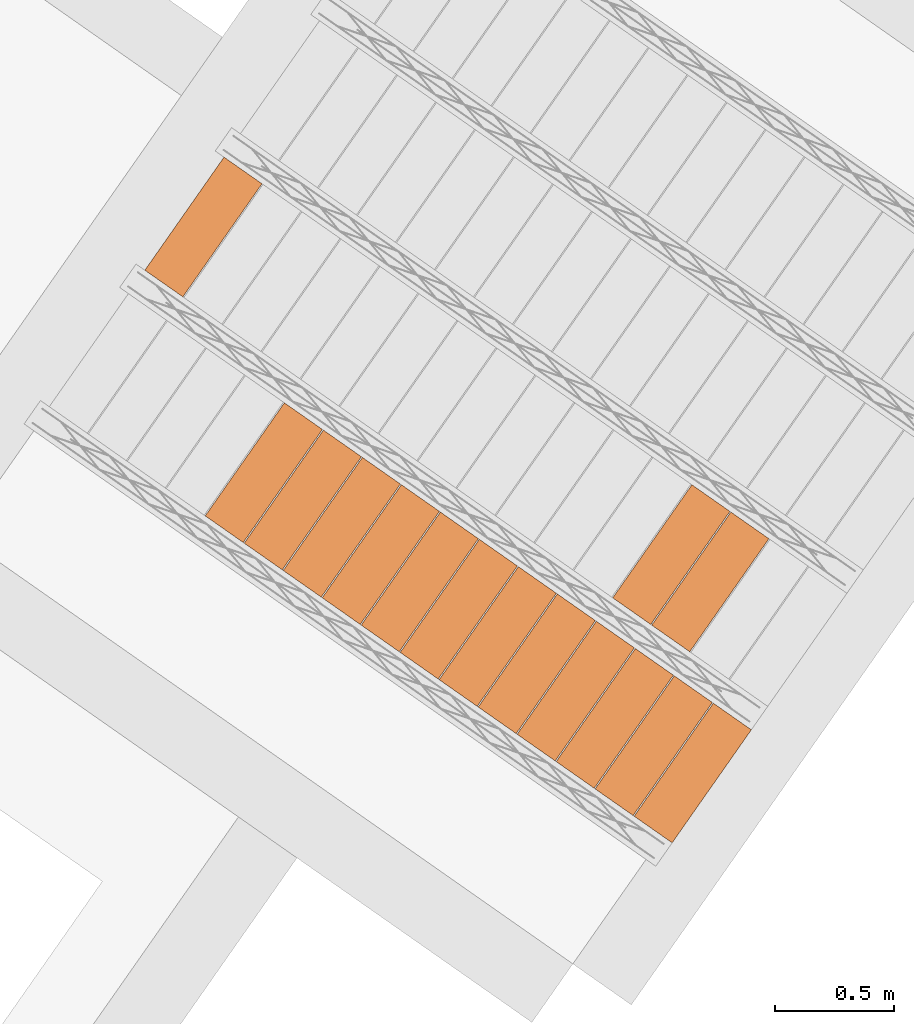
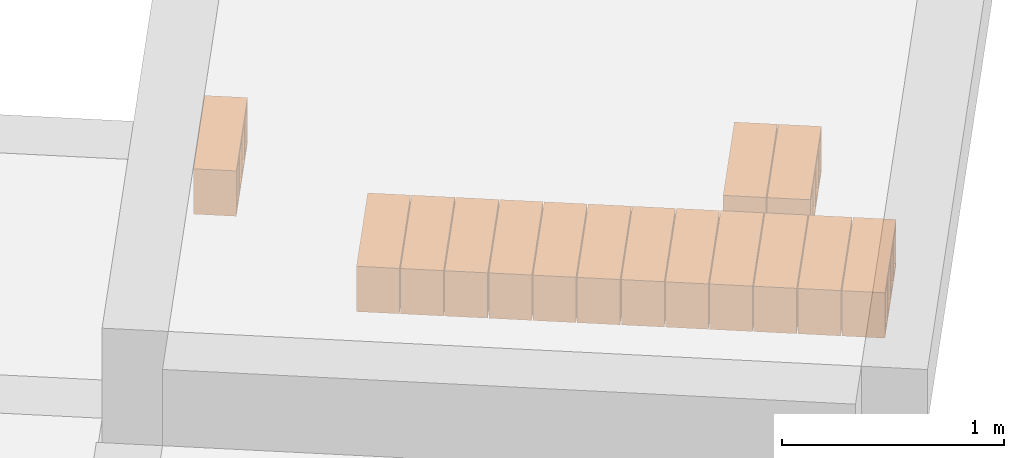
# One storey, part 42 of 46: 15 proxies.
"""IFC2X3 building model written with IfcOpenShell, lengths in metres."""

import ifcopenshell
import ifcopenshell.guid

model = None  # the IFC model being written
_history = None  # IfcOwnerHistory: only IFC2X3 demands one
_inside = {}  # id of a spatial element -> (the spatial element, [elements in it])
_under = {}  # id of a project, library or spatial element -> (it, [spatial elements below it])
_declared = {}  # id of a project -> (the project, [libraries it declares])
_typed = {}  # id of a type object -> (the type object, [elements of that type])
_made_of = {}  # id of a material, layer set ... -> (it, [elements and type objects made of it])


def new_model(schema):
    """Start an empty IFC model of exactly this schema.

    Asked for "IFC4X3", IfcOpenShell would pick the latest addendum, in which some entities
    have other attributes; the version numbers below select the first issue.
    IFC2X3 requires an IfcOwnerHistory on every rooted entity: one is made here for all.
    """
    global model, _history
    if schema == "IFC4X3":
        model = ifcopenshell.file(schema_version=(4, 3, 0, 0))
    else:
        model = ifcopenshell.file(schema=schema)
    _inside.clear()
    _under.clear()
    _declared.clear()
    _typed.clear()
    _made_of.clear()
    _history = None
    if model.schema == "IFC2X3":
        org = make("IfcOrganization", Name="unknown")
        user = make(
            "IfcPersonAndOrganization",
            ThePerson=make("IfcPerson", FamilyName="unknown"),
            TheOrganization=org,
        )
        app = make(
            "IfcApplication",
            ApplicationDeveloper=org,
            Version="unknown",
            ApplicationFullName="unknown",
            ApplicationIdentifier="unknown",
        )
        _history = make(
            "IfcOwnerHistory",
            OwningUser=user,
            OwningApplication=app,
            ChangeAction="ADDED",
            CreationDate=0,
        )
    return model


def make(cls, **values):
    """One entity of the class cls with the attributes given. An attribute that is None is left unset."""
    return model.create_entity(
        cls, **{name: value for name, value in values.items() if value is not None}
    )


def entity(cls, *values):
    """Any entity or typed value of the class cls, its attributes in the order of the schema. None: left unset."""
    e = model.create_entity(cls)
    for i, value in enumerate(values):
        if value is not None:
            e[i] = value
    return e


def rooted(cls, **values):
    """An entity with a GlobalId (a new one), such as an element, a storey or a relation."""
    return make(cls, GlobalId=ifcopenshell.guid.new(), OwnerHistory=_history, **values)


def si_unit(unit_type, name, prefix=None):
    """IfcSIUnit, for example si_unit("LENGTHUNIT", "METRE", prefix="MILLI")."""
    return make("IfcSIUnit", UnitType=unit_type, Prefix=prefix, Name=name)


def converted_unit(unit_type, name, factor, base, dimensions=None, offset=None):
    """IfcConversionBasedUnit, such as the inch: factor (a typed value) times the base unit."""
    return make(
        "IfcConversionBasedUnit"
        if offset is None
        else "IfcConversionBasedUnitWithOffset",
        ConversionOffset=offset,
        Dimensions=None
        if dimensions is None
        else entity("IfcDimensionalExponents", *dimensions),
        UnitType=unit_type,
        Name=name,
        ConversionFactor=make(
            "IfcMeasureWithUnit", ValueComponent=factor, UnitComponent=base
        ),
    )


def derived_unit(unit_type, elements):
    """IfcDerivedUnit: a product of units, each with its exponent."""
    return make(
        "IfcDerivedUnit",
        Elements=[
            make("IfcDerivedUnitElement", Unit=unit, Exponent=power)
            for unit, power in elements
        ],
        UnitType=unit_type,
    )


def assignment(units):
    """IfcUnitAssignment: the units of a project."""
    return None if units is None else make("IfcUnitAssignment", Units=units)


def point(xyz):
    """IfcCartesianPoint."""
    return None if xyz is None else make("IfcCartesianPoint", Coordinates=xyz)


def direction(xyz):
    """IfcDirection."""
    return None if xyz is None else make("IfcDirection", DirectionRatios=xyz)


def frame(location, z_axis=None, x_axis=None):
    """IfcAxis2Placement3D, a coordinate frame: its origin and axes. An axis left out is left unset."""
    return make(
        "IfcAxis2Placement3D",
        Location=point(location),
        Axis=direction(z_axis),
        RefDirection=direction(x_axis),
    )


def origin():
    """The frame at (0, 0, 0) with its axes left unset."""
    return frame((0.0, 0.0, 0.0))


def place(relative_to, where):
    """IfcLocalPlacement: puts the frame where relative to a parent placement (None: the world)."""
    return make(
        "IfcLocalPlacement", PlacementRelTo=relative_to, RelativePlacement=where
    )


def context(
    kind, dimensions, precision=None, world=None, true_north=None, identifier=None
):
    """IfcGeometricRepresentationContext, for example the 3D "Model" context."""
    return make(
        "IfcGeometricRepresentationContext",
        ContextIdentifier=identifier,
        ContextType=kind,
        CoordinateSpaceDimension=dimensions,
        Precision=precision,
        WorldCoordinateSystem=world,
        TrueNorth=true_north,
    )


def subcontext(parent, identifier, kind, view, scale=None):
    """IfcGeometricRepresentationSubContext, for example "Body" below "Model"."""
    return make(
        "IfcGeometricRepresentationSubContext",
        ContextIdentifier=identifier,
        ContextType=kind,
        ParentContext=parent,
        TargetScale=scale,
        TargetView=view,
    )


def project(units=None, contexts=None):
    """IfcProject with its units and contexts."""
    return rooted(
        "IfcProject",
        Name="project",
        RepresentationContexts=contexts,
        UnitsInContext=assignment(units),
    )


def spatial(cls, under=None, at=None, **own):
    """A site, building, storey or space (cls), placed at a placement, below another one or the project."""
    s = rooted(cls, ObjectPlacement=at, **own)
    if under is not None:
        _under.setdefault(under.id(), (under, []))[1].append(s)
    return s


def polyline(points):
    """IfcPolyline through the points."""
    return make("IfcPolyline", Points=[point(p) for p in points])


def outline(outer, holes=None, kind="AREA"):
    """IfcArbitraryClosedProfileDef: a profile drawn as a closed curve; with holes, ...WithVoids."""
    if holes is None:
        return make("IfcArbitraryClosedProfileDef", ProfileType=kind, OuterCurve=outer)
    return make(
        "IfcArbitraryProfileDefWithVoids",
        ProfileType=kind,
        OuterCurve=outer,
        InnerCurves=holes,
    )


def extrude(swept, where, along, depth):
    """IfcExtrudedAreaSolid: the profile swept, set in the frame where, extruded along a direction by depth."""
    return make(
        "IfcExtrudedAreaSolid",
        SweptArea=swept,
        Position=where,
        ExtrudedDirection=direction(along),
        Depth=depth,
    )


def shape(context_of_items, identifier, shape_type, items):
    """IfcShapeRepresentation: the items that make up one representation, for example the "Body"."""
    return make(
        "IfcShapeRepresentation",
        ContextOfItems=context_of_items,
        RepresentationIdentifier=identifier,
        RepresentationType=shape_type,
        Items=items,
    )


def made_of(thing, what):
    """Note that an element or type object is made of a material, layer set ...; save() writes the relation."""
    if what is not None:
        _made_of.setdefault(what.id(), (what, []))[1].append(thing)
    return thing


def type_object(cls, material=None, **own):
    """A type object (cls), such as IfcWallType, which elements share."""
    return made_of(rooted(cls, **own), material)


def element(
    cls,
    number,
    at=None,
    inside=None,
    cuts=None,
    type_object=None,
    material=None,
    context=None,
    identifier="Body",
    shape_type=None,
    held_by="IfcProductDefinitionShape",
    body=None,
    shapes=None,
    **own,
):
    """One element of the class cls, such as IfcWall. Its Tag is "e" and its number.

    at: its placement. inside: the storey or other place that contains it. cuts: it is an
    opening in that element (IfcRelVoidsElement). A single representation is given by context,
    identifier, shape_type and body (its items); several are given by shapes. held_by: the class
    of the entity that holds the representations. save() writes the other relations.
    """
    e = rooted(cls, Tag="e%d" % number, ObjectPlacement=at, **own)
    if body is not None:
        shapes = [shape(context, identifier, shape_type, body)]
    if shapes is not None:
        e.Representation = make(held_by, Representations=shapes)
    if inside is not None:
        _inside.setdefault(inside.id(), (inside, []))[1].append(e)
    if cuts is not None:
        rooted(
            "IfcRelVoidsElement", RelatingBuildingElement=cuts, RelatedOpeningElement=e
        )
    if type_object is not None:
        _typed.setdefault(type_object.id(), (type_object, []))[1].append(e)
    return made_of(e, material)


def aggregate(whole, parts):
    """IfcRelAggregates: a whole, such as a stair, and the parts it consists of."""
    return rooted("IfcRelAggregates", RelatingObject=whole, RelatedObjects=parts)


def save(model, path):
    """Write the relations noted so far, then the file.

    IfcRelAggregates (storeys below a building ...), IfcRelContainedInSpatialStructure (elements
    in a storey), IfcRelDefinesByType, IfcRelAssociatesMaterial and IfcRelDeclares: one each for
    every whole, place, type object, material and project.
    """
    for whole, parts in _under.values():
        aggregate(whole, parts)
    for where, things in _inside.values():
        rooted(
            "IfcRelContainedInSpatialStructure",
            RelatedElements=things,
            RelatingStructure=where,
        )
    for kind, things in _typed.values():
        rooted("IfcRelDefinesByType", RelatedObjects=things, RelatingType=kind)
    for what, things in _made_of.values():
        rooted("IfcRelAssociatesMaterial", RelatedObjects=things, RelatingMaterial=what)
    for by, libraries in _declared.values():
        rooted("IfcRelDeclares", RelatingContext=by, RelatedDefinitions=libraries)
    model.write(path)


model = new_model("IFC2X3")

# Units and contexts
model_context = context("Model", 3, precision=1e-05, world=origin(), true_north=direction((6.123031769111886e-17, 1.0)))
body_context = subcontext(model_context, "Body", "Model", "MODEL_VIEW")
ifc_project = project(units=[si_unit("LENGTHUNIT", "METRE"), si_unit("AREAUNIT", "SQUARE_METRE"), si_unit("VOLUMEUNIT", "CUBIC_METRE"), converted_unit("PLANEANGLEUNIT", "DEGREE", entity("IfcPlaneAngleMeasure", 0.017453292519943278), si_unit("PLANEANGLEUNIT", "RADIAN"), dimensions=[0, 0, 0, 0, 0, 0, 0]), si_unit("MASSUNIT", "GRAM", prefix="KILO"), derived_unit("MASSDENSITYUNIT", [(si_unit("MASSUNIT", "GRAM", prefix="KILO"), 1), (si_unit("LENGTHUNIT", "METRE"), -3)]), derived_unit("IONCONCENTRATIONUNIT", [(si_unit("MASSUNIT", "GRAM", prefix="KILO"), 1), (si_unit("LENGTHUNIT", "METRE"), -3)]), derived_unit("MOMENTOFINERTIAUNIT", [(si_unit("LENGTHUNIT", "METRE"), 4)]), si_unit("TIMEUNIT", "SECOND"), si_unit("FREQUENCYUNIT", "HERTZ"), si_unit("THERMODYNAMICTEMPERATUREUNIT", "DEGREE_CELSIUS"), derived_unit("THERMALTRANSMITTANCEUNIT", [(si_unit("MASSUNIT", "GRAM", prefix="KILO"), 1), (si_unit("THERMODYNAMICTEMPERATUREUNIT", "KELVIN"), -1), (si_unit("TIMEUNIT", "SECOND"), -3)]), derived_unit("THERMALCONDUCTANCEUNIT", [(si_unit("MASSUNIT", "GRAM", prefix="KILO"), 1), (si_unit("THERMODYNAMICTEMPERATUREUNIT", "KELVIN"), -1), (si_unit("TIMEUNIT", "SECOND"), -3), (si_unit("LENGTHUNIT", "METRE"), 1)]), derived_unit("VOLUMETRICFLOWRATEUNIT", [(si_unit("LENGTHUNIT", "METRE", prefix="DECI"), 3), (si_unit("TIMEUNIT", "SECOND"), -1)]), derived_unit("MASSFLOWRATEUNIT", [(si_unit("MASSUNIT", "GRAM", prefix="KILO"), 1), (si_unit("TIMEUNIT", "SECOND"), -1)]), derived_unit("ROTATIONALFREQUENCYUNIT", [(si_unit("TIMEUNIT", "SECOND"), -1)]), si_unit("ELECTRICCURRENTUNIT", "AMPERE"), si_unit("ELECTRICVOLTAGEUNIT", "VOLT"), si_unit("POWERUNIT", "WATT"), si_unit("FORCEUNIT", "NEWTON", prefix="KILO"), si_unit("ILLUMINANCEUNIT", "LUX"), si_unit("LUMINOUSFLUXUNIT", "LUMEN"), si_unit("LUMINOUSINTENSITYUNIT", "CANDELA"), si_unit("ENERGYUNIT", "JOULE"), derived_unit("USERDEFINED", [(si_unit("MASSUNIT", "GRAM", prefix="KILO"), -1), (si_unit("LENGTHUNIT", "METRE"), -2), (si_unit("TIMEUNIT", "SECOND"), 3), (si_unit("LUMINOUSFLUXUNIT", "LUMEN"), 1)]), derived_unit("USERDEFINED", [(si_unit("MASSUNIT", "GRAM", prefix="KILO"), 1), (si_unit("TIMEUNIT", "SECOND"), -3), (si_unit("LENGTHUNIT", "METRE"), 3), (si_unit("ELECTRICCURRENTUNIT", "AMPERE"), -2)]), derived_unit("SOUNDPOWERUNIT", [(si_unit("MASSUNIT", "GRAM", prefix="KILO"), 1), (si_unit("TIMEUNIT", "SECOND"), -3), (si_unit("LENGTHUNIT", "METRE"), 2)]), derived_unit("SOUNDPRESSUREUNIT", [(si_unit("MASSUNIT", "GRAM", prefix="KILO"), 1), (si_unit("LENGTHUNIT", "METRE"), -1), (si_unit("TIMEUNIT", "SECOND"), -2)]), derived_unit("LINEARVELOCITYUNIT", [(si_unit("LENGTHUNIT", "METRE"), 1), (si_unit("TIMEUNIT", "SECOND"), -1)]), si_unit("PRESSUREUNIT", "PASCAL"), derived_unit("USERDEFINED", [(si_unit("MASSUNIT", "GRAM", prefix="KILO"), 1), (si_unit("LENGTHUNIT", "METRE"), -2), (si_unit("TIMEUNIT", "SECOND"), -2)]), derived_unit("LINEARFORCEUNIT", [(si_unit("MASSUNIT", "GRAM", prefix="KILO"), 1), (si_unit("TIMEUNIT", "SECOND"), -2)]), derived_unit("PLANARFORCEUNIT", [(si_unit("MASSUNIT", "GRAM", prefix="KILO"), 1), (si_unit("LENGTHUNIT", "METRE"), -1), (si_unit("TIMEUNIT", "SECOND"), -2)]), derived_unit("SPECIFICHEATCAPACITYUNIT", [(si_unit("THERMODYNAMICTEMPERATUREUNIT", "KELVIN"), -1), (si_unit("LENGTHUNIT", "METRE"), 2), (si_unit("TIMEUNIT", "SECOND"), -2)]), derived_unit("HEATFLUXDENSITYUNIT", [(si_unit("MASSUNIT", "GRAM", prefix="KILO"), 1), (si_unit("TIMEUNIT", "SECOND"), -3)]), derived_unit("HEATINGVALUEUNIT", [(si_unit("LENGTHUNIT", "METRE"), 2), (si_unit("TIMEUNIT", "SECOND"), -2)]), derived_unit("VAPORPERMEABILITYUNIT", [(si_unit("LENGTHUNIT", "METRE"), -1), (si_unit("TIMEUNIT", "SECOND"), 1)]), derived_unit("DYNAMICVISCOSITYUNIT", [(si_unit("MASSUNIT", "GRAM", prefix="KILO"), 1), (si_unit("TIMEUNIT", "SECOND"), -1), (si_unit("LENGTHUNIT", "METRE"), -1)]), derived_unit("THERMALEXPANSIONCOEFFICIENTUNIT", [(si_unit("THERMODYNAMICTEMPERATUREUNIT", "KELVIN"), -1)]), derived_unit("MODULUSOFELASTICITYUNIT", [(si_unit("MASSUNIT", "GRAM", prefix="KILO"), 1), (si_unit("LENGTHUNIT", "METRE"), -1), (si_unit("TIMEUNIT", "SECOND"), -2)]), derived_unit("ISOTHERMALMOISTURECAPACITYUNIT", [(si_unit("MASSUNIT", "GRAM", prefix="KILO"), -1), (si_unit("LENGTHUNIT", "METRE"), 3)]), derived_unit("MOISTUREDIFFUSIVITYUNIT", [(si_unit("TIMEUNIT", "SECOND"), -1), (si_unit("LENGTHUNIT", "METRE"), 2)]), derived_unit("MASSPERLENGTHUNIT", [(si_unit("MASSUNIT", "GRAM", prefix="KILO"), 1), (si_unit("LENGTHUNIT", "METRE"), -1)]), derived_unit("THERMALRESISTANCEUNIT", [(si_unit("MASSUNIT", "GRAM", prefix="KILO"), -1), (si_unit("TIMEUNIT", "SECOND"), 3), (si_unit("THERMODYNAMICTEMPERATUREUNIT", "KELVIN"), 1)]), derived_unit("ACCELERATIONUNIT", [(si_unit("LENGTHUNIT", "METRE"), 1), (si_unit("TIMEUNIT", "SECOND"), -2)]), derived_unit("ANGULARVELOCITYUNIT", [(si_unit("TIMEUNIT", "SECOND"), -1), (si_unit("PLANEANGLEUNIT", "RADIAN"), 1)]), derived_unit("LINEARSTIFFNESSUNIT", [(si_unit("MASSUNIT", "GRAM", prefix="KILO"), 1), (si_unit("TIMEUNIT", "SECOND"), -2)]), derived_unit("WARPINGCONSTANTUNIT", [(si_unit("LENGTHUNIT", "METRE"), 6)]), derived_unit("LINEARMOMENTUNIT", [(si_unit("MASSUNIT", "GRAM", prefix="KILO"), 1), (si_unit("LENGTHUNIT", "METRE"), 1), (si_unit("TIMEUNIT", "SECOND"), -2)]), derived_unit("TORQUEUNIT", [(si_unit("MASSUNIT", "GRAM", prefix="KILO"), 1), (si_unit("LENGTHUNIT", "METRE"), 2), (si_unit("TIMEUNIT", "SECOND"), -2)])], contexts=[model_context])

# Site, building, storey
site_placement = place(None, origin())
site = spatial("IfcSite", under=ifc_project, at=site_placement, Name="Default", CompositionType="ELEMENT")
building_placement = place(site_placement, origin())
building = spatial("IfcBuilding", under=site, at=building_placement, CompositionType="ELEMENT")
storey_placement = place(building_placement, frame((0.0, 0.0, 99.52000000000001)))
storey = spatial("IfcBuildingStorey", under=building, at=storey_placement, Name="F1", CompositionType="ELEMENT", Elevation=99.52000000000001)

# Proxies
building_element_proxy_type_1 = type_object("IfcBuildingElementProxyType", Name="Bovedilla 1-1 (Paño 3)", PredefinedType="USERDEFINED")
proxy_1_placement = place(storey_placement, origin())
element("IfcBuildingElementProxy", 1, at=proxy_1_placement, inside=storey, type_object=building_element_proxy_type_1, Name="Bovedilla 1-1 (Paño 3)", ObjectType="FORM", context=body_context, shape_type="SweptSolid", body=[
    extrude(outline(polyline([(-0.29, -0.12500000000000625), (0.29, -0.12500000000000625), (0.29, 0.12500000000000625), (-0.29, 0.12500000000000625), (-0.29, -0.12500000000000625)]), holes=[polyline([(0.27000000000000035, -0.10499999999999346), (0.1550000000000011, -0.10499999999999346), (0.1550000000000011, 0.10499999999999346), (0.27000000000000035, 0.10499999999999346), (0.27000000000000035, 0.042499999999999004), (0.27000000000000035, -0.10499999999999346)]), polyline([(0.009999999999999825, -0.10499999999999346), (0.009999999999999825, 0.10499999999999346), (0.1349999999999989, 0.10499999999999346), (0.1349999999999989, -0.10499999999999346), (0.009999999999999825, -0.10499999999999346)]), polyline([(-0.1349999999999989, 0.10499999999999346), (-0.009999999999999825, 0.10499999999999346), (-0.009999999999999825, -0.10499999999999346), (-0.1349999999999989, -0.10499999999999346), (-0.1349999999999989, 0.10499999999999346)]), polyline([(-0.27000000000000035, -0.10499999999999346), (-0.27000000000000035, 0.042499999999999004), (-0.27000000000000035, 0.10499999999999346), (-0.1550000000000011, 0.10499999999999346), (-0.1550000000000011, -0.10499999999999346), (-0.27000000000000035, -0.10499999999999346)])]), frame((13.173041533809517, 3.3504597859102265, 0.3249999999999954), z_axis=(0.819152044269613, -0.5735764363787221, 0.0), x_axis=(-0.5735764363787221, -0.819152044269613, 0.0)), (0.0, 0.0, 1.0), 0.1950000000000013),
])
building_element_proxy_type_2 = type_object("IfcBuildingElementProxyType", Name="Bovedilla 1-2 (Paño 3)", PredefinedType="USERDEFINED")
proxy_2_placement = place(storey_placement, origin())
element("IfcBuildingElementProxy", 2, at=proxy_2_placement, inside=storey, type_object=building_element_proxy_type_2, Name="Bovedilla 1-2 (Paño 3)", ObjectType="FORM", context=body_context, shape_type="SweptSolid", body=[
    extrude(outline(polyline([(-0.29, -0.12500000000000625), (0.29, -0.12500000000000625), (0.29, 0.12500000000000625), (-0.29, 0.12500000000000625), (-0.29, -0.12500000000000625)]), holes=[polyline([(0.27000000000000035, -0.10499999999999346), (0.1550000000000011, -0.10499999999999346), (0.1550000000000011, 0.10499999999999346), (0.27000000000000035, 0.10499999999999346), (0.27000000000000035, 0.042499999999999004), (0.27000000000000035, -0.10499999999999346)]), polyline([(0.009999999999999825, -0.10499999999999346), (0.009999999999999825, 0.10499999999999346), (0.1349999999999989, 0.10499999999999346), (0.1349999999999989, -0.10499999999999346), (0.009999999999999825, -0.10499999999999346)]), polyline([(-0.1349999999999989, 0.10499999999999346), (-0.009999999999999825, 0.10499999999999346), (-0.009999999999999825, -0.10499999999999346), (-0.1349999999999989, -0.10499999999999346), (-0.1349999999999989, 0.10499999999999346)]), polyline([(-0.27000000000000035, -0.10499999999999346), (-0.27000000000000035, 0.042499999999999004), (-0.27000000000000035, 0.10499999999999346), (-0.1550000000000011, 0.10499999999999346), (-0.1550000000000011, -0.10499999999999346), (-0.27000000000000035, -0.10499999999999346)])]), frame((13.009211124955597, 3.465175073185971, 0.3249999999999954), z_axis=(0.819152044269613, -0.5735764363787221, 0.0), x_axis=(-0.5735764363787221, -0.819152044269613, 0.0)), (0.0, 0.0, 1.0), 0.1950000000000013),
])
building_element_proxy_type_3 = type_object("IfcBuildingElementProxyType", Name="Bovedilla 1-3 (Paño 3)", PredefinedType="USERDEFINED")
proxy_3_placement = place(storey_placement, origin())
element("IfcBuildingElementProxy", 3, at=proxy_3_placement, inside=storey, type_object=building_element_proxy_type_3, Name="Bovedilla 1-3 (Paño 3)", ObjectType="FORM", context=body_context, shape_type="SweptSolid", body=[
    extrude(outline(polyline([(-0.29, -0.12500000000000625), (0.29, -0.12500000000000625), (0.29, 0.12500000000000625), (-0.29, 0.12500000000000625), (-0.29, -0.12500000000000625)]), holes=[polyline([(0.27000000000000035, -0.10499999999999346), (0.1550000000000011, -0.10499999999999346), (0.1550000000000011, 0.10499999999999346), (0.27000000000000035, 0.10499999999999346), (0.27000000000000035, 0.042499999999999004), (0.27000000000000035, -0.10499999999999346)]), polyline([(0.009999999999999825, -0.10499999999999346), (0.009999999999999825, 0.10499999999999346), (0.1349999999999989, 0.10499999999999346), (0.1349999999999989, -0.10499999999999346), (0.009999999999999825, -0.10499999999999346)]), polyline([(-0.1349999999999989, 0.10499999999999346), (-0.009999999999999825, 0.10499999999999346), (-0.009999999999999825, -0.10499999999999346), (-0.1349999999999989, -0.10499999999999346), (-0.1349999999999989, 0.10499999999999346)]), polyline([(-0.27000000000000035, -0.10499999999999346), (-0.27000000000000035, 0.042499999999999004), (-0.27000000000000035, 0.10499999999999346), (-0.1550000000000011, 0.10499999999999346), (-0.1550000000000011, -0.10499999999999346), (-0.27000000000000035, -0.10499999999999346)])]), frame((12.845380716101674, 3.579890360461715, 0.3249999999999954), z_axis=(0.819152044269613, -0.5735764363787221, 0.0), x_axis=(-0.5735764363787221, -0.819152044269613, 0.0)), (0.0, 0.0, 1.0), 0.19499999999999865),
])
building_element_proxy_type_4 = type_object("IfcBuildingElementProxyType", Name="Bovedilla 1-4 (Paño 3)", PredefinedType="USERDEFINED")
proxy_4_placement = place(storey_placement, origin())
element("IfcBuildingElementProxy", 4, at=proxy_4_placement, inside=storey, type_object=building_element_proxy_type_4, Name="Bovedilla 1-4 (Paño 3)", ObjectType="FORM", context=body_context, shape_type="SweptSolid", body=[
    extrude(outline(polyline([(-0.29, -0.12500000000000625), (0.29, -0.12500000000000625), (0.29, 0.12500000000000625), (-0.29, 0.12500000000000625), (-0.29, -0.12500000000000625)]), holes=[polyline([(0.27000000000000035, -0.10499999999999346), (0.1550000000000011, -0.10499999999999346), (0.1550000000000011, 0.10499999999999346), (0.27000000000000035, 0.10499999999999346), (0.27000000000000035, 0.042499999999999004), (0.27000000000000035, -0.10499999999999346)]), polyline([(0.009999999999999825, -0.10499999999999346), (0.009999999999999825, 0.10499999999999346), (0.1349999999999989, 0.10499999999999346), (0.1349999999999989, -0.10499999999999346), (0.009999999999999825, -0.10499999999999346)]), polyline([(-0.1349999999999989, 0.10499999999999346), (-0.009999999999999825, 0.10499999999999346), (-0.009999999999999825, -0.10499999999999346), (-0.1349999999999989, -0.10499999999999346), (-0.1349999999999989, 0.10499999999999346)]), polyline([(-0.27000000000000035, -0.10499999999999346), (-0.27000000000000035, 0.042499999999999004), (-0.27000000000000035, 0.10499999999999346), (-0.1550000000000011, 0.10499999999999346), (-0.1550000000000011, -0.10499999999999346), (-0.27000000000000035, -0.10499999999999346)])]), frame((12.681550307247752, 3.6946056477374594, 0.3249999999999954), z_axis=(0.819152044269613, -0.5735764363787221, 0.0), x_axis=(-0.5735764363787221, -0.819152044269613, 0.0)), (0.0, 0.0, 1.0), 0.19499999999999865),
])
building_element_proxy_type_5 = type_object("IfcBuildingElementProxyType", Name="Bovedilla 1-5 (Paño 3)", PredefinedType="USERDEFINED")
proxy_5_placement = place(storey_placement, origin())
element("IfcBuildingElementProxy", 5, at=proxy_5_placement, inside=storey, type_object=building_element_proxy_type_5, Name="Bovedilla 1-5 (Paño 3)", ObjectType="FORM", context=body_context, shape_type="SweptSolid", body=[
    extrude(outline(polyline([(-0.29, -0.12500000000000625), (0.29, -0.12500000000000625), (0.29, 0.12500000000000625), (-0.29, 0.12500000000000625), (-0.29, -0.12500000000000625)]), holes=[polyline([(0.27000000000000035, -0.10499999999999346), (0.1550000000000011, -0.10499999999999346), (0.1550000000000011, 0.10499999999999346), (0.27000000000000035, 0.10499999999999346), (0.27000000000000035, 0.042499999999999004), (0.27000000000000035, -0.10499999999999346)]), polyline([(0.009999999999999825, -0.10499999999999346), (0.009999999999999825, 0.10499999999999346), (0.1349999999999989, 0.10499999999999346), (0.1349999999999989, -0.10499999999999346), (0.009999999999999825, -0.10499999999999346)]), polyline([(-0.1349999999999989, 0.10499999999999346), (-0.009999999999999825, 0.10499999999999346), (-0.009999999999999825, -0.10499999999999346), (-0.1349999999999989, -0.10499999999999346), (-0.1349999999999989, 0.10499999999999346)]), polyline([(-0.27000000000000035, -0.10499999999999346), (-0.27000000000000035, 0.042499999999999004), (-0.27000000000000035, 0.10499999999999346), (-0.1550000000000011, 0.10499999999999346), (-0.1550000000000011, -0.10499999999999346), (-0.27000000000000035, -0.10499999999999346)])]), frame((12.51771989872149, 3.809320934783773, 0.3249999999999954), z_axis=(0.819152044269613, -0.5735764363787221, 0.0), x_axis=(-0.5735764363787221, -0.819152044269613, 0.0)), (0.0, 0.0, 1.0), 0.19499999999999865),
])
building_element_proxy_type_6 = type_object("IfcBuildingElementProxyType", Name="Bovedilla 1-6 (Paño 3)", PredefinedType="USERDEFINED")
proxy_6_placement = place(storey_placement, origin())
element("IfcBuildingElementProxy", 6, at=proxy_6_placement, inside=storey, type_object=building_element_proxy_type_6, Name="Bovedilla 1-6 (Paño 3)", ObjectType="FORM", context=body_context, shape_type="SweptSolid", body=[
    extrude(outline(polyline([(-0.29, -0.12500000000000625), (0.29, -0.12500000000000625), (0.29, 0.12500000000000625), (-0.29, 0.12500000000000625), (-0.29, -0.12500000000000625)]), holes=[polyline([(0.27000000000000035, -0.10499999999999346), (0.1550000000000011, -0.10499999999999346), (0.1550000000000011, 0.10499999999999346), (0.27000000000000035, 0.10499999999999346), (0.27000000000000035, 0.042499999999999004), (0.27000000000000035, -0.10499999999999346)]), polyline([(0.009999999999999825, -0.10499999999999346), (0.009999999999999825, 0.10499999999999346), (0.1349999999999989, 0.10499999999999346), (0.1349999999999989, -0.10499999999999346), (0.009999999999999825, -0.10499999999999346)]), polyline([(-0.1349999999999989, 0.10499999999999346), (-0.009999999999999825, 0.10499999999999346), (-0.009999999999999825, -0.10499999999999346), (-0.1349999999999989, -0.10499999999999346), (-0.1349999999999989, 0.10499999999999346)]), polyline([(-0.27000000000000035, -0.10499999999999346), (-0.27000000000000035, 0.042499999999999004), (-0.27000000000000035, 0.10499999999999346), (-0.1550000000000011, 0.10499999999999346), (-0.1550000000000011, -0.10499999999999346), (-0.27000000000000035, -0.10499999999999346)])]), frame((12.35388948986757, 3.9240362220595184, 0.3249999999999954), z_axis=(0.819152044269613, -0.5735764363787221, 0.0), x_axis=(-0.5735764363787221, -0.819152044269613, 0.0)), (0.0, 0.0, 1.0), 0.19499999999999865),
])
building_element_proxy_type_7 = type_object("IfcBuildingElementProxyType", Name="Bovedilla 1-7 (Paño 3)", PredefinedType="USERDEFINED")
proxy_7_placement = place(storey_placement, origin())
element("IfcBuildingElementProxy", 7, at=proxy_7_placement, inside=storey, type_object=building_element_proxy_type_7, Name="Bovedilla 1-7 (Paño 3)", ObjectType="FORM", context=body_context, shape_type="SweptSolid", body=[
    extrude(outline(polyline([(-0.29, -0.12500000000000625), (0.29, -0.12500000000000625), (0.29, 0.12500000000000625), (-0.29, 0.12500000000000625), (-0.29, -0.12500000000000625)]), holes=[polyline([(0.27000000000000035, -0.10499999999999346), (0.1550000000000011, -0.10499999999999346), (0.1550000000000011, 0.10499999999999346), (0.27000000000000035, 0.10499999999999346), (0.27000000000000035, 0.042499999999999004), (0.27000000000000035, -0.10499999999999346)]), polyline([(0.009999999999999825, -0.10499999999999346), (0.009999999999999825, 0.10499999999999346), (0.1349999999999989, 0.10499999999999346), (0.1349999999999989, -0.10499999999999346), (0.009999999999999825, -0.10499999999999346)]), polyline([(-0.1349999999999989, 0.10499999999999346), (-0.009999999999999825, 0.10499999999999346), (-0.009999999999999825, -0.10499999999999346), (-0.1349999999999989, -0.10499999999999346), (-0.1349999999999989, 0.10499999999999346)]), polyline([(-0.27000000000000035, -0.10499999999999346), (-0.27000000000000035, 0.042499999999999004), (-0.27000000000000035, 0.10499999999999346), (-0.1550000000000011, 0.10499999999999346), (-0.1550000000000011, -0.10499999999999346), (-0.27000000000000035, -0.10499999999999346)])]), frame((12.190059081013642, 4.038751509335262, 0.3249999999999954), z_axis=(0.819152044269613, -0.5735764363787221, 0.0), x_axis=(-0.5735764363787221, -0.819152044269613, 0.0)), (0.0, 0.0, 1.0), 0.1950000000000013),
])
building_element_proxy_type_8 = type_object("IfcBuildingElementProxyType", Name="Bovedilla 1-8 (Paño 3)", PredefinedType="USERDEFINED")
proxy_8_placement = place(storey_placement, origin())
element("IfcBuildingElementProxy", 8, at=proxy_8_placement, inside=storey, type_object=building_element_proxy_type_8, Name="Bovedilla 1-8 (Paño 3)", ObjectType="FORM", context=body_context, shape_type="SweptSolid", body=[
    extrude(outline(polyline([(-0.29, -0.12500000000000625), (0.29, -0.12500000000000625), (0.29, 0.12500000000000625), (-0.29, 0.12500000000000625), (-0.29, -0.12500000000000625)]), holes=[polyline([(0.27000000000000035, -0.10499999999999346), (0.1550000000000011, -0.10499999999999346), (0.1550000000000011, 0.10499999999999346), (0.27000000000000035, 0.10499999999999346), (0.27000000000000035, 0.042499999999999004), (0.27000000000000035, -0.10499999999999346)]), polyline([(0.009999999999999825, -0.10499999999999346), (0.009999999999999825, 0.10499999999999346), (0.1349999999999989, 0.10499999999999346), (0.1349999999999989, -0.10499999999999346), (0.009999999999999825, -0.10499999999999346)]), polyline([(-0.1349999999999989, 0.10499999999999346), (-0.009999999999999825, 0.10499999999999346), (-0.009999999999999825, -0.10499999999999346), (-0.1349999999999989, -0.10499999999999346), (-0.1349999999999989, 0.10499999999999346)]), polyline([(-0.27000000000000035, -0.10499999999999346), (-0.27000000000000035, 0.042499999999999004), (-0.27000000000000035, 0.10499999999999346), (-0.1550000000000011, 0.10499999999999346), (-0.1550000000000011, -0.10499999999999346), (-0.27000000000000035, -0.10499999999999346)])]), frame((12.026228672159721, 4.153466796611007, 0.3249999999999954), z_axis=(0.819152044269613, -0.5735764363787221, 0.0), x_axis=(-0.5735764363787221, -0.819152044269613, 0.0)), (0.0, 0.0, 1.0), 0.1950000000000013),
])
building_element_proxy_type_9 = type_object("IfcBuildingElementProxyType", Name="Bovedilla 1-9 (Paño 3)", PredefinedType="USERDEFINED")
proxy_9_placement = place(storey_placement, origin())
element("IfcBuildingElementProxy", 9, at=proxy_9_placement, inside=storey, type_object=building_element_proxy_type_9, Name="Bovedilla 1-9 (Paño 3)", ObjectType="FORM", context=body_context, shape_type="SweptSolid", body=[
    extrude(outline(polyline([(-0.29, -0.12500000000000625), (0.29, -0.12500000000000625), (0.29, 0.12500000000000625), (-0.29, 0.12500000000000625), (-0.29, -0.12500000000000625)]), holes=[polyline([(0.27000000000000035, -0.10499999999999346), (0.1550000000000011, -0.10499999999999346), (0.1550000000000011, 0.10499999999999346), (0.27000000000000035, 0.10499999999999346), (0.27000000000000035, 0.042499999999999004), (0.27000000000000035, -0.10499999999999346)]), polyline([(0.009999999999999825, -0.10499999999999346), (0.009999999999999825, 0.10499999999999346), (0.1349999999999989, 0.10499999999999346), (0.1349999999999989, -0.10499999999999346), (0.009999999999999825, -0.10499999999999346)]), polyline([(-0.1349999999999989, 0.10499999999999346), (-0.009999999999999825, 0.10499999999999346), (-0.009999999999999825, -0.10499999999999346), (-0.1349999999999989, -0.10499999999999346), (-0.1349999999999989, 0.10499999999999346)]), polyline([(-0.27000000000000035, -0.10499999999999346), (-0.27000000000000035, 0.042499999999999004), (-0.27000000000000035, 0.10499999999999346), (-0.1550000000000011, 0.10499999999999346), (-0.1550000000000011, -0.10499999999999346), (-0.27000000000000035, -0.10499999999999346)])]), frame((11.8623982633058, 4.268182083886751, 0.3249999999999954), z_axis=(0.819152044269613, -0.5735764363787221, 0.0), x_axis=(-0.5735764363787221, -0.819152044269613, 0.0)), (0.0, 0.0, 1.0), 0.19499999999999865),
])
building_element_proxy_type_10 = type_object("IfcBuildingElementProxyType", Name="Bovedilla 1-10 (Paño 3)", PredefinedType="USERDEFINED")
proxy_10_placement = place(storey_placement, origin())
element("IfcBuildingElementProxy", 10, at=proxy_10_placement, inside=storey, type_object=building_element_proxy_type_10, Name="Bovedilla 1-10 (Paño 3)", ObjectType="FORM", context=body_context, shape_type="SweptSolid", body=[
    extrude(outline(polyline([(-0.29, -0.12500000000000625), (0.29, -0.12500000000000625), (0.29, 0.12500000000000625), (-0.29, 0.12500000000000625), (-0.29, -0.12500000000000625)]), holes=[polyline([(0.27000000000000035, -0.10499999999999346), (0.1550000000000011, -0.10499999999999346), (0.1550000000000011, 0.10499999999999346), (0.27000000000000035, 0.10499999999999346), (0.27000000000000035, 0.042499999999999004), (0.27000000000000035, -0.10499999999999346)]), polyline([(0.009999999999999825, -0.10499999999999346), (0.009999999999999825, 0.10499999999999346), (0.1349999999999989, 0.10499999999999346), (0.1349999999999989, -0.10499999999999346), (0.009999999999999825, -0.10499999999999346)]), polyline([(-0.1349999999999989, 0.10499999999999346), (-0.009999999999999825, 0.10499999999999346), (-0.009999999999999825, -0.10499999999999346), (-0.1349999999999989, -0.10499999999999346), (-0.1349999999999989, 0.10499999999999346)]), polyline([(-0.27000000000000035, -0.10499999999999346), (-0.27000000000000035, 0.042499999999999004), (-0.27000000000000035, 0.10499999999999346), (-0.1550000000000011, 0.10499999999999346), (-0.1550000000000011, -0.10499999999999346), (-0.27000000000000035, -0.10499999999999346)])]), frame((11.698567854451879, 4.382897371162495, 0.3249999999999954), z_axis=(0.819152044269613, -0.5735764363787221, 0.0), x_axis=(-0.5735764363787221, -0.819152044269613, 0.0)), (0.0, 0.0, 1.0), 0.19499999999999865),
])
building_element_proxy_type_11 = type_object("IfcBuildingElementProxyType", Name="Bovedilla 1-11 (Paño 3)", PredefinedType="USERDEFINED")
proxy_11_placement = place(storey_placement, origin())
element("IfcBuildingElementProxy", 11, at=proxy_11_placement, inside=storey, type_object=building_element_proxy_type_11, Name="Bovedilla 1-11 (Paño 3)", ObjectType="FORM", context=body_context, shape_type="SweptSolid", body=[
    extrude(outline(polyline([(-0.29, -0.12500000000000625), (0.29, -0.12500000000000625), (0.29, 0.12500000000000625), (-0.29, 0.12500000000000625), (-0.29, -0.12500000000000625)]), holes=[polyline([(0.27000000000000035, -0.10499999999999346), (0.1550000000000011, -0.10499999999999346), (0.1550000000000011, 0.10499999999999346), (0.27000000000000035, 0.10499999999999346), (0.27000000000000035, 0.042499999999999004), (0.27000000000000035, -0.10499999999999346)]), polyline([(0.009999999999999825, -0.10499999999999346), (0.009999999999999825, 0.10499999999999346), (0.1349999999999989, 0.10499999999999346), (0.1349999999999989, -0.10499999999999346), (0.009999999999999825, -0.10499999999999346)]), polyline([(-0.1349999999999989, 0.10499999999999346), (-0.009999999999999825, 0.10499999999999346), (-0.009999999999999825, -0.10499999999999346), (-0.1349999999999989, -0.10499999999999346), (-0.1349999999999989, 0.10499999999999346)]), polyline([(-0.27000000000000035, -0.10499999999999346), (-0.27000000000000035, 0.042499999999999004), (-0.27000000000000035, 0.10499999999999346), (-0.1550000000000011, 0.10499999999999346), (-0.1550000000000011, -0.10499999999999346), (-0.27000000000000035, -0.10499999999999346)])]), frame((11.534737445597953, 4.49761265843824, 0.3249999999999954), z_axis=(0.819152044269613, -0.5735764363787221, 0.0), x_axis=(-0.5735764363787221, -0.819152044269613, 0.0)), (0.0, 0.0, 1.0), 0.1950000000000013),
])
building_element_proxy_type_12 = type_object("IfcBuildingElementProxyType", Name="Bovedilla 1-12 (Paño 3)", PredefinedType="USERDEFINED")
proxy_12_placement = place(storey_placement, origin())
element("IfcBuildingElementProxy", 12, at=proxy_12_placement, inside=storey, type_object=building_element_proxy_type_12, Name="Bovedilla 1-12 (Paño 3)", ObjectType="FORM", context=body_context, shape_type="SweptSolid", body=[
    extrude(outline(polyline([(-0.29, -0.12500000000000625), (0.29, -0.12500000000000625), (0.29, 0.12500000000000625), (-0.29, 0.12500000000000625), (-0.29, -0.12500000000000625)]), holes=[polyline([(0.27000000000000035, -0.10499999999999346), (0.1550000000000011, -0.10499999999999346), (0.1550000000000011, 0.10499999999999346), (0.27000000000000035, 0.10499999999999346), (0.27000000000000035, 0.042499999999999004), (0.27000000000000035, -0.10499999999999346)]), polyline([(0.009999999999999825, -0.10499999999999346), (0.009999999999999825, 0.10499999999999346), (0.1349999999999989, 0.10499999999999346), (0.1349999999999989, -0.10499999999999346), (0.009999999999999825, -0.10499999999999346)]), polyline([(-0.1349999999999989, 0.10499999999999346), (-0.009999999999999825, 0.10499999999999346), (-0.009999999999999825, -0.10499999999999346), (-0.1349999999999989, -0.10499999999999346), (-0.1349999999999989, 0.10499999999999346)]), polyline([(-0.27000000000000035, -0.10499999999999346), (-0.27000000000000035, 0.042499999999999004), (-0.27000000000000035, 0.10499999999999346), (-0.1550000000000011, 0.10499999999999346), (-0.1550000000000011, -0.10499999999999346), (-0.27000000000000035, -0.10499999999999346)])]), frame((11.37090703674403, 4.612327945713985, 0.3249999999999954), z_axis=(0.819152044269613, -0.5735764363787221, 0.0), x_axis=(-0.5735764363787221, -0.819152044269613, 0.0)), (0.0, 0.0, 1.0), 0.1950000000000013),
])
building_element_proxy_type_13 = type_object("IfcBuildingElementProxyType", Name="Bovedilla 2-3 (Paño 3)", PredefinedType="USERDEFINED")
proxy_13_placement = place(storey_placement, origin())
element("IfcBuildingElementProxy", 13, at=proxy_13_placement, inside=storey, type_object=building_element_proxy_type_13, Name="Bovedilla 2-3 (Paño 3)", ObjectType="FORM", context=body_context, shape_type="SweptSolid", body=[
    extrude(outline(polyline([(-0.29, -0.12500000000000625), (0.29, -0.12500000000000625), (0.29, 0.12500000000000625), (-0.29, 0.12500000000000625), (-0.29, -0.12500000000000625)]), holes=[polyline([(0.27000000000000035, -0.10499999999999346), (0.1550000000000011, -0.10499999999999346), (0.1550000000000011, 0.10499999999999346), (0.27000000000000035, 0.10499999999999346), (0.27000000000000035, 0.042499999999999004), (0.27000000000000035, -0.10499999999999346)]), polyline([(0.009999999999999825, -0.10499999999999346), (0.009999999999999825, 0.10499999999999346), (0.1349999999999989, 0.10499999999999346), (0.1349999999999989, -0.10499999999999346), (0.009999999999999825, -0.10499999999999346)]), polyline([(-0.1349999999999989, 0.10499999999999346), (-0.009999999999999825, 0.10499999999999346), (-0.009999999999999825, -0.10499999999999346), (-0.1349999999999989, -0.10499999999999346), (-0.1349999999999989, 0.10499999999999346)]), polyline([(-0.27000000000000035, -0.10499999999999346), (-0.27000000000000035, 0.042499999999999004), (-0.27000000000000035, 0.10499999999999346), (-0.1550000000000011, 0.10499999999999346), (-0.1550000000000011, -0.10499999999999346), (-0.27000000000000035, -0.10499999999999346)])]), frame((13.246884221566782, 4.153296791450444, 0.3249999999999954), z_axis=(0.819152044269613, -0.5735764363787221, 0.0), x_axis=(-0.5735764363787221, -0.819152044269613, 0.0)), (0.0, 0.0, 1.0), 0.19499999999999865),
])
building_element_proxy_type_14 = type_object("IfcBuildingElementProxyType", Name="Bovedilla 2-4 (Paño 3)", PredefinedType="USERDEFINED")
proxy_14_placement = place(storey_placement, origin())
element("IfcBuildingElementProxy", 14, at=proxy_14_placement, inside=storey, type_object=building_element_proxy_type_14, Name="Bovedilla 2-4 (Paño 3)", ObjectType="FORM", context=body_context, shape_type="SweptSolid", body=[
    extrude(outline(polyline([(-0.29, -0.12500000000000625), (0.29, -0.12500000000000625), (0.29, 0.12500000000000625), (-0.29, 0.12500000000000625), (-0.29, -0.12500000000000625)]), holes=[polyline([(0.27000000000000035, -0.10499999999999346), (0.1550000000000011, -0.10499999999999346), (0.1550000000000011, 0.10499999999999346), (0.27000000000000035, 0.10499999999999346), (0.27000000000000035, 0.042499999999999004), (0.27000000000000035, -0.10499999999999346)]), polyline([(0.009999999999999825, -0.10499999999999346), (0.009999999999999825, 0.10499999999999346), (0.1349999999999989, 0.10499999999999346), (0.1349999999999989, -0.10499999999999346), (0.009999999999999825, -0.10499999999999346)]), polyline([(-0.1349999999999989, 0.10499999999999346), (-0.009999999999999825, 0.10499999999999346), (-0.009999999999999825, -0.10499999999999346), (-0.1349999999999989, -0.10499999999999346), (-0.1349999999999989, 0.10499999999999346)]), polyline([(-0.27000000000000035, -0.10499999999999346), (-0.27000000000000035, 0.042499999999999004), (-0.27000000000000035, 0.10499999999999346), (-0.1550000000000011, 0.10499999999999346), (-0.1550000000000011, -0.10499999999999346), (-0.27000000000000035, -0.10499999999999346)])]), frame((13.08305381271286, 4.268012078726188, 0.3249999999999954), z_axis=(0.819152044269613, -0.5735764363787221, 0.0), x_axis=(-0.5735764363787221, -0.819152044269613, 0.0)), (0.0, 0.0, 1.0), 0.19499999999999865),
])
building_element_proxy_type_15 = type_object("IfcBuildingElementProxyType", Name="Bovedilla 2-16 (Paño 3)", PredefinedType="USERDEFINED")
proxy_15_placement = place(storey_placement, origin())
element("IfcBuildingElementProxy", 15, at=proxy_15_placement, inside=storey, type_object=building_element_proxy_type_15, Name="Bovedilla 2-16 (Paño 3)", ObjectType="FORM", context=body_context, shape_type="SweptSolid", body=[
    extrude(outline(polyline([(-0.28999999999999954, -0.12500000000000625), (0.28999999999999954, -0.12500000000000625), (0.28999999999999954, 0.12500000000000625), (-0.28999999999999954, 0.12500000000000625), (-0.28999999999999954, -0.12500000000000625)]), holes=[polyline([(0.26999999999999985, -0.10499999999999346), (0.15500000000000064, -0.10499999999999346), (0.15500000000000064, 0.10499999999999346), (0.26999999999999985, 0.10499999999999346), (0.26999999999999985, 0.042499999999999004), (0.26999999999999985, -0.10499999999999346)]), polyline([(0.009999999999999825, -0.10499999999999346), (0.009999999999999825, 0.10499999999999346), (0.13499999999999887, 0.10499999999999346), (0.13499999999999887, -0.10499999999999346), (0.009999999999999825, -0.10499999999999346)]), polyline([(-0.13499999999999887, 0.10499999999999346), (-0.009999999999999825, 0.10499999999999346), (-0.009999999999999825, -0.10499999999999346), (-0.13499999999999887, -0.10499999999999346), (-0.13499999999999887, 0.10499999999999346)]), polyline([(-0.26999999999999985, -0.10499999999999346), (-0.26999999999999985, 0.042499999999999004), (-0.26999999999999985, 0.10499999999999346), (-0.15500000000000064, 0.10499999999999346), (-0.15500000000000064, -0.10499999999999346), (-0.26999999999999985, -0.10499999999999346)])]), frame((11.117088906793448, 5.644595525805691, 0.3249999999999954), z_axis=(0.8191520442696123, -0.5735764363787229, 0.0), x_axis=(-0.5735764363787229, -0.8191520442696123, 0.0)), (0.0, 0.0, 1.0), 0.1950000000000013),
])

save(model, "model.ifc")
